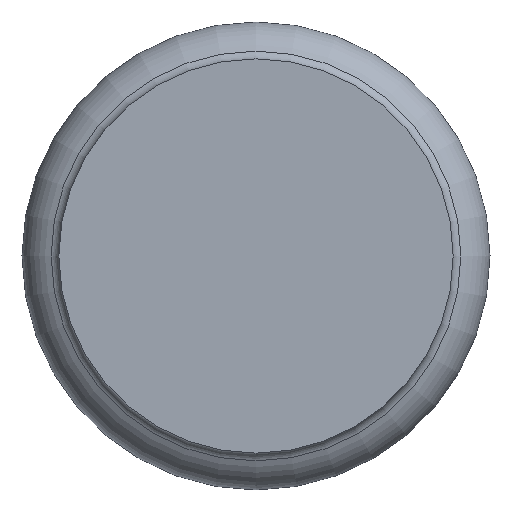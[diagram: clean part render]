
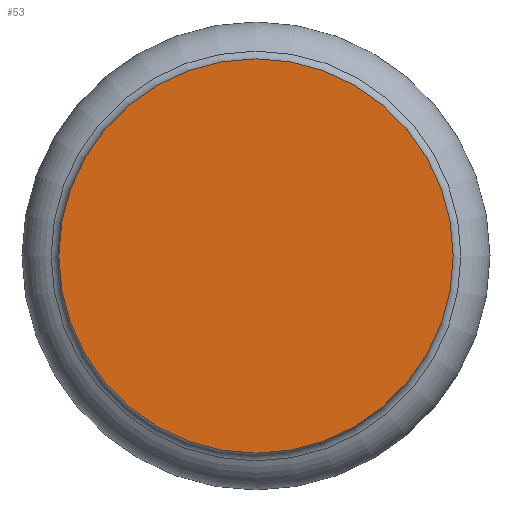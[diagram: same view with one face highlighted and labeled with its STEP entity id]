
A CAD part, front view. The second image highlights one B-rep face of the part: STEP entity #53.
In plain terms, the highlighted planar face has unit normal (0, -1, 0).
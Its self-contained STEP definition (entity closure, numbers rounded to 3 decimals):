
#53=ADVANCED_FACE('',(#82),#84,.F.);
#82=FACE_BOUND('',#83,.T.);
#83=EDGE_LOOP('',(#307));
#84=PLANE('',#85);
#85=AXIS2_PLACEMENT_3D('',#86,#87,#88);
#86=CARTESIAN_POINT('',(0.,0.,0.));
#87=DIRECTION('',(0.,1.,0.));
#88=DIRECTION('',(-1.,0.,0.));
#307=ORIENTED_EDGE('',*,*,#421,.F.);
#421=EDGE_CURVE('',#478,#478,#479,.T.);
#478=VERTEX_POINT('',#576);
#479=CIRCLE('',#577,15.63);
#576=CARTESIAN_POINT('',(0.,0.,15.63));
#577=AXIS2_PLACEMENT_3D('',#578,#579,#580);
#578=CARTESIAN_POINT('',(0.,0.,0.));
#579=DIRECTION('',(0.,1.,0.));
#580=DIRECTION('',(0.,0.,1.));
